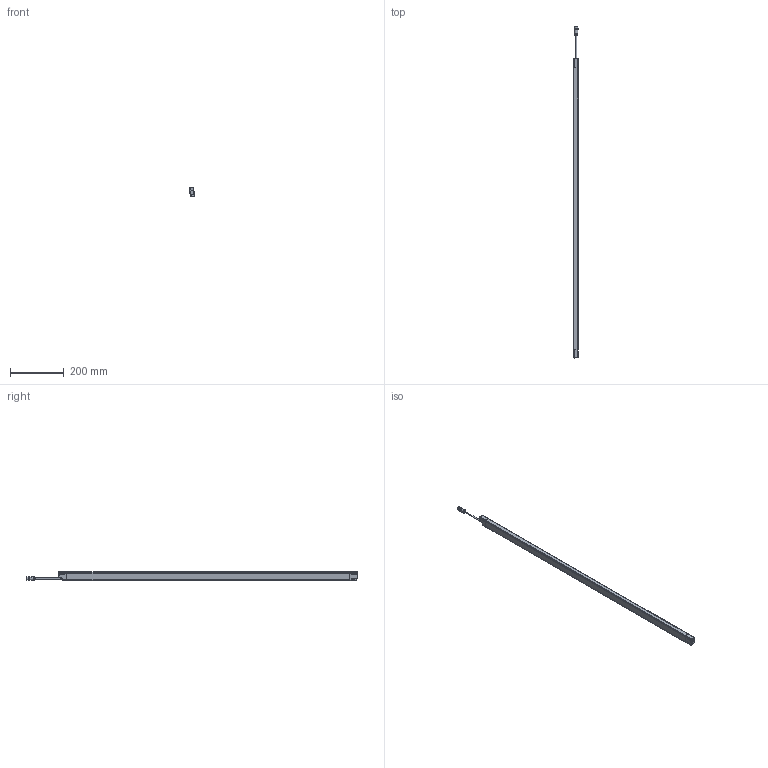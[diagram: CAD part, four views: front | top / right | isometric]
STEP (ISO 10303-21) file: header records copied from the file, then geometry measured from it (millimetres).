
FILE_DESCRIPTION(/* description */ (''),/* implementation_level */ '2;1');
FILE_NAME(/* name */ 'DSD-0652.stp',/* time_stamp */ '2015-02-23T17:53:23+01:00',/* author */ (''),/* organization */ (''),/* preprocessor_version */ 'ST-DEVELOPER v11',/* originating_system */ 'SIEMENS PLM Software NX 7.5',/* authorisation */ '');
FILE_SCHEMA (('AUTOMOTIVE_DESIGN { 1 0 10303 214 1 1 1 1 }'));
Length unit declared in the file: millimetre
Products named in the file (1): AP008174_00
Bounding box: 17.36 x 1230.24 x 33.46 mm (x, y, z)
Surface area: 137136.8 mm2 (no closed solid volume)
Topology: 0 solids, 48 shells, 1021 faces, 3515 edges, 2427 vertices
Faces by surface type: cylinder 390, plane 300, bspline 128, torus 111, sphere 63, cone 29
Full cylindrical faces by diameter (mm): 1 x5, 1.2 x2, 2.6 x6, 4 x1, 8.3 x1, 9.4 x1, 10.4 x1, 12 x1, 13 x1, 13.5 x1, 14.5 x2
Entity records: 42933 total; most frequent: CARTESIAN_POINT 13187, DIRECTION 6429, ORIENTED_EDGE 5409, EDGE_CURVE 3407, AXIS2_PLACEMENT_3D 2429, VERTEX_POINT 2402, LINE 1571, VECTOR 1571
